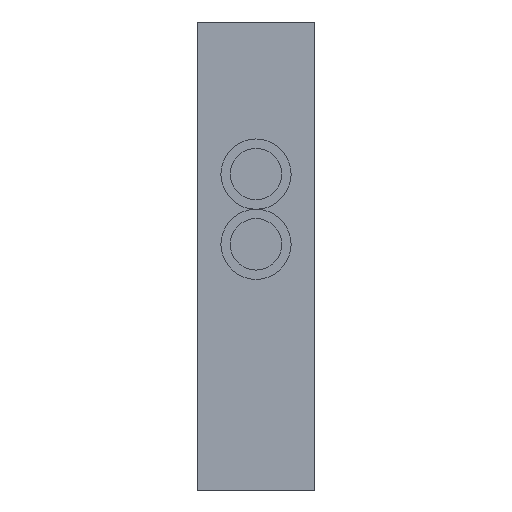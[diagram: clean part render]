
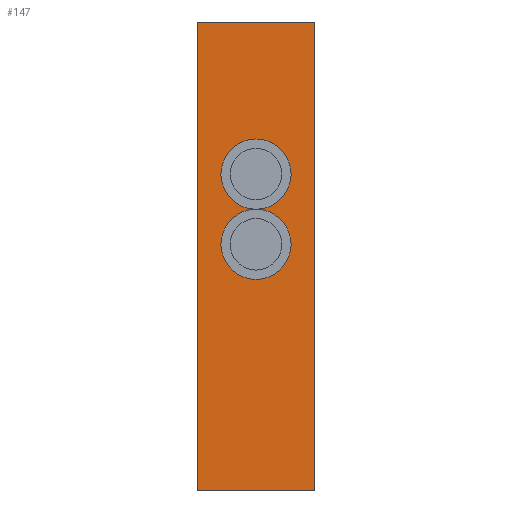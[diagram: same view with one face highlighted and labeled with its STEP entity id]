
A CAD part, front view. The second image highlights one B-rep face of the part: STEP entity #147.
In plain terms, the highlighted planar face has unit normal (0, -1, 0).
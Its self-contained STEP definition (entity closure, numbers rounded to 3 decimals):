
#126 = VERTEX_POINT ( 'NONE', #464 ) ;
#140 = EDGE_CURVE ( 'NONE', #141, #126, #483, .T. ) ;
#141 = VERTEX_POINT ( 'NONE', #479 ) ;
#147 = ADVANCED_FACE ( 'NONE', ( #469, #346, #345 ), #344, .F. ) ;
#148 = EDGE_LOOP ( 'NONE', ( #149, #150 ) ) ;
#149 = ORIENTED_EDGE ( 'NONE', *, *, #255, .T. ) ;
#150 = ORIENTED_EDGE ( 'NONE', *, *, #151, .T. ) ;
#151 = EDGE_CURVE ( 'NONE', #242, #241, #339, .T. ) ;
#152 = EDGE_LOOP ( 'NONE', ( #168, #169 ) ) ;
#168 = ORIENTED_EDGE ( 'NONE', *, *, #217, .T. ) ;
#169 = ORIENTED_EDGE ( 'NONE', *, *, #170, .T. ) ;
#170 = EDGE_CURVE ( 'NONE', #240, #218, #510, .T. ) ;
#171 = EDGE_LOOP ( 'NONE', ( #172, #175, #178, #180 ) ) ;
#172 = ORIENTED_EDGE ( 'NONE', *, *, #173, .T. ) ;
#173 = EDGE_CURVE ( 'NONE', #126, #174, #505, .T. ) ;
#174 = VERTEX_POINT ( 'NONE', #501 ) ;
#175 = ORIENTED_EDGE ( 'NONE', *, *, #176, .F. ) ;
#176 = EDGE_CURVE ( 'NONE', #177, #174, #500, .T. ) ;
#177 = VERTEX_POINT ( 'NONE', #496 ) ;
#178 = ORIENTED_EDGE ( 'NONE', *, *, #179, .F. ) ;
#179 = EDGE_CURVE ( 'NONE', #141, #177, #495, .T. ) ;
#180 = ORIENTED_EDGE ( 'NONE', *, *, #140, .T. ) ;
#217 = EDGE_CURVE ( 'NONE', #218, #240, #709, .T. ) ;
#218 = VERTEX_POINT ( 'NONE', #704 ) ;
#240 = VERTEX_POINT ( 'NONE', #609 ) ;
#241 = VERTEX_POINT ( 'NONE', #608 ) ;
#242 = VERTEX_POINT ( 'NONE', #607 ) ;
#255 = EDGE_CURVE ( 'NONE', #241, #242, #581, .T. ) ;
#335 = DIRECTION ( 'NONE',  ( 0., 0., 1. ) ) ;
#336 = DIRECTION ( 'NONE',  ( 0., 1., 0. ) ) ;
#337 = CARTESIAN_POINT ( 'NONE',  ( 9.501, 0., 0. ) ) ;
#338 = AXIS2_PLACEMENT_3D ( 'NONE', #337, #336, #335 ) ;
#339 = CIRCLE ( 'NONE', #338, 1.5 ) ;
#340 = DIRECTION ( 'NONE',  ( 0., 0., 1. ) ) ;
#341 = DIRECTION ( 'NONE',  ( 0., 1., 0. ) ) ;
#342 = CARTESIAN_POINT ( 'NONE',  ( 0., 0., 2.5 ) ) ;
#343 = AXIS2_PLACEMENT_3D ( 'NONE', #342, #341, #340 ) ;
#344 = PLANE ( 'NONE',  #343 ) ;
#345 = FACE_OUTER_BOUND ( 'NONE', #171, .T. ) ;
#346 = FACE_BOUND ( 'NONE', #152, .T. ) ;
#464 = CARTESIAN_POINT ( 'NONE',  ( 0., 0., -2.5 ) ) ;
#469 = FACE_BOUND ( 'NONE', #148, .T. ) ;
#479 = CARTESIAN_POINT ( 'NONE',  ( 0., 0., 2.5 ) ) ;
#480 = DIRECTION ( 'NONE',  ( 0., 0., -1. ) ) ;
#481 = VECTOR ( 'NONE', #480, 1000. ) ;
#482 = CARTESIAN_POINT ( 'NONE',  ( 0., 0., 2.5 ) ) ;
#483 = LINE ( 'NONE', #482, #481 ) ;
#492 = DIRECTION ( 'NONE',  ( 1., 0., 0. ) ) ;
#493 = VECTOR ( 'NONE', #492, 1000. ) ;
#494 = CARTESIAN_POINT ( 'NONE',  ( 0., 0., 2.5 ) ) ;
#495 = LINE ( 'NONE', #494, #493 ) ;
#496 = CARTESIAN_POINT ( 'NONE',  ( 20., 0., 2.5 ) ) ;
#497 = DIRECTION ( 'NONE',  ( 0., 0., -1. ) ) ;
#498 = VECTOR ( 'NONE', #497, 1000. ) ;
#499 = CARTESIAN_POINT ( 'NONE',  ( 20., 0., 2.5 ) ) ;
#500 = LINE ( 'NONE', #499, #498 ) ;
#501 = CARTESIAN_POINT ( 'NONE',  ( 20., 0., -2.5 ) ) ;
#502 = DIRECTION ( 'NONE',  ( 1., 0., 0. ) ) ;
#503 = VECTOR ( 'NONE', #502, 1000. ) ;
#504 = CARTESIAN_POINT ( 'NONE',  ( 0., 0., -2.5 ) ) ;
#505 = LINE ( 'NONE', #504, #503 ) ;
#506 = DIRECTION ( 'NONE',  ( 0., 0., 1. ) ) ;
#507 = DIRECTION ( 'NONE',  ( 0., 1., 0. ) ) ;
#508 = CARTESIAN_POINT ( 'NONE',  ( 6.5, 0., 0. ) ) ;
#509 = AXIS2_PLACEMENT_3D ( 'NONE', #508, #507, #506 ) ;
#510 = CIRCLE ( 'NONE', #509, 1.5 ) ;
#577 = DIRECTION ( 'NONE',  ( 0., 0., 1. ) ) ;
#578 = DIRECTION ( 'NONE',  ( 0., 1., 0. ) ) ;
#579 = CARTESIAN_POINT ( 'NONE',  ( 9.501, 0., 0. ) ) ;
#580 = AXIS2_PLACEMENT_3D ( 'NONE', #579, #578, #577 ) ;
#581 = CIRCLE ( 'NONE', #580, 1.5 ) ;
#607 = CARTESIAN_POINT ( 'NONE',  ( 9.501, 0., -1.5 ) ) ;
#608 = CARTESIAN_POINT ( 'NONE',  ( 9.501, 0., 1.5 ) ) ;
#609 = CARTESIAN_POINT ( 'NONE',  ( 6.5, 0., -1.5 ) ) ;
#704 = CARTESIAN_POINT ( 'NONE',  ( 6.5, 0., 1.5 ) ) ;
#705 = DIRECTION ( 'NONE',  ( 0., 0., 1. ) ) ;
#706 = DIRECTION ( 'NONE',  ( 0., 1., 0. ) ) ;
#707 = CARTESIAN_POINT ( 'NONE',  ( 6.5, 0., 0. ) ) ;
#708 = AXIS2_PLACEMENT_3D ( 'NONE', #707, #706, #705 ) ;
#709 = CIRCLE ( 'NONE', #708, 1.5 ) ;
